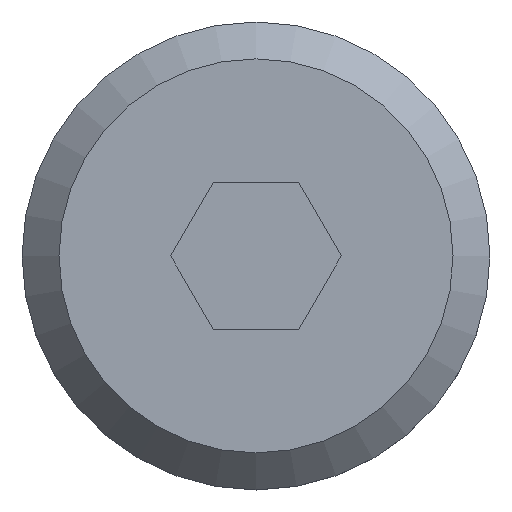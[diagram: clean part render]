
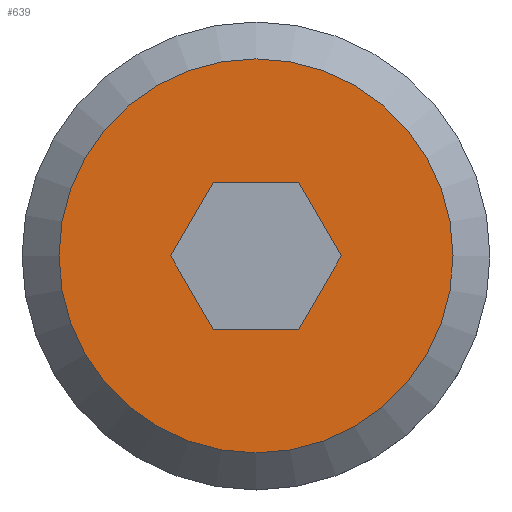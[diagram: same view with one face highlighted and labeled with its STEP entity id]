
A CAD part, top view. The second image highlights one B-rep face of the part: STEP entity #639.
In plain terms, the highlighted planar face has unit normal (0, 0, 1).
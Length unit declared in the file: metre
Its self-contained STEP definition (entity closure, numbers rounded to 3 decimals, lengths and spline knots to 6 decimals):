
#102=LINE('',#771,#124);
#105=LINE('',#777,#127);
#107=LINE('',#781,#129);
#109=LINE('',#785,#131);
#111=LINE('',#789,#133);
#113=LINE('',#793,#135);
#124=VECTOR('',#699,1.);
#127=VECTOR('',#704,1.);
#129=VECTOR('',#708,1.);
#131=VECTOR('',#712,1.);
#133=VECTOR('',#716,1.);
#135=VECTOR('',#720,1.);
#148=PLANE('',#671);
#272=ORIENTED_EDGE('',*,*,#375,.T.);
#273=ORIENTED_EDGE('',*,*,#378,.T.);
#274=ORIENTED_EDGE('',*,*,#380,.T.);
#275=ORIENTED_EDGE('',*,*,#382,.T.);
#276=ORIENTED_EDGE('',*,*,#384,.T.);
#277=ORIENTED_EDGE('',*,*,#386,.T.);
#278=ORIENTED_EDGE('',*,*,#367,.T.);
#367=EDGE_CURVE('',#475,#475,#572,.T.);
#375=EDGE_CURVE('',#483,#484,#102,.T.);
#378=EDGE_CURVE('',#484,#485,#105,.T.);
#380=EDGE_CURVE('',#485,#486,#107,.T.);
#382=EDGE_CURVE('',#486,#487,#109,.T.);
#384=EDGE_CURVE('',#487,#488,#111,.T.);
#386=EDGE_CURVE('',#488,#483,#113,.T.);
#475=VERTEX_POINT('',#754);
#483=VERTEX_POINT('',#772);
#484=VERTEX_POINT('',#773);
#485=VERTEX_POINT('',#778);
#486=VERTEX_POINT('',#782);
#487=VERTEX_POINT('',#786);
#488=VERTEX_POINT('',#790);
#572=CIRCLE('',#659,0.004);
#592=EDGE_LOOP('',(#272,#273,#274,#275,#276,#277));
#593=EDGE_LOOP('',(#278));
#615=FACE_BOUND('',#592,.T.);
#616=FACE_BOUND('',#593,.T.);
#639=ADVANCED_FACE('',(#615,#616),#148,.F.);
#659=AXIS2_PLACEMENT_3D('',#753,#685,#686);
#671=AXIS2_PLACEMENT_3D('',#4186,#731,#732);
#685=DIRECTION('',(0.,0.,1.));
#686=DIRECTION('',(-1.,0.,0.));
#699=DIRECTION('',(-1.,0.,0.));
#704=DIRECTION('',(-0.5,0.866,0.));
#708=DIRECTION('',(0.5,0.866,0.));
#712=DIRECTION('',(1.,0.,0.));
#716=DIRECTION('',(0.5,-0.866,0.));
#720=DIRECTION('',(-0.5,-0.866,0.));
#731=DIRECTION('',(0.,0.,-1.));
#732=DIRECTION('',(0.,1.,0.));
#753=CARTESIAN_POINT('',(-0.005677,0.034798,0.216573));
#754=CARTESIAN_POINT('',(-0.009677,0.034798,0.216573));
#771=CARTESIAN_POINT('',(-0.004811,0.033298,0.216573));
#772=CARTESIAN_POINT('',(-0.004811,0.033298,0.216573));
#773=CARTESIAN_POINT('',(-0.006543,0.033298,0.216573));
#777=CARTESIAN_POINT('',(-0.006543,0.033298,0.216573));
#778=CARTESIAN_POINT('',(-0.007409,0.034798,0.216573));
#781=CARTESIAN_POINT('',(-0.007409,0.034798,0.216573));
#782=CARTESIAN_POINT('',(-0.006543,0.036298,0.216573));
#785=CARTESIAN_POINT('',(-0.006543,0.036298,0.216573));
#786=CARTESIAN_POINT('',(-0.004811,0.036298,0.216573));
#789=CARTESIAN_POINT('',(-0.004811,0.036298,0.216573));
#790=CARTESIAN_POINT('',(-0.003945,0.034798,0.216573));
#793=CARTESIAN_POINT('',(-0.003945,0.034798,0.216573));
#4186=CARTESIAN_POINT('',(-0.010427,0.034798,0.216573));
